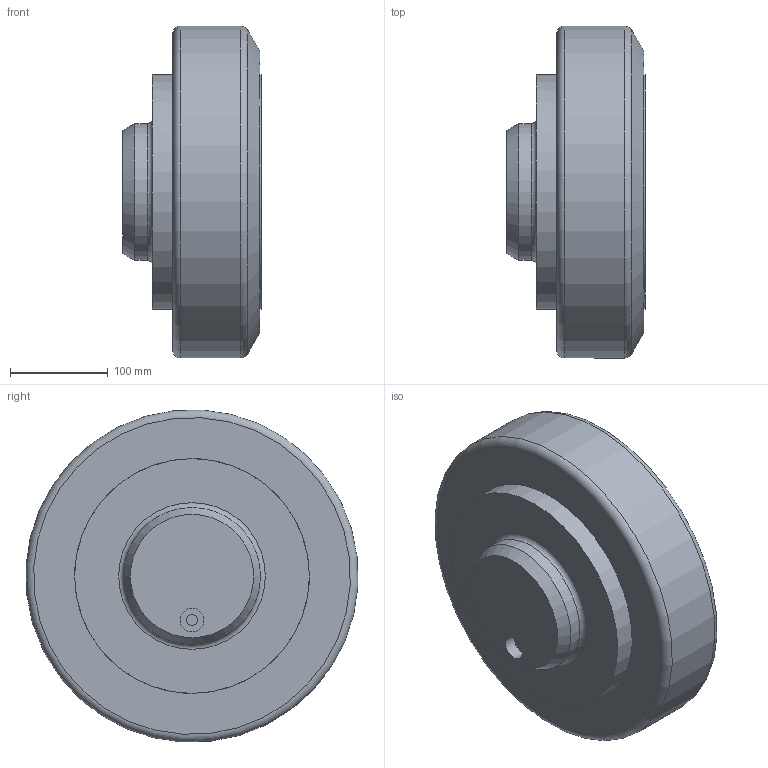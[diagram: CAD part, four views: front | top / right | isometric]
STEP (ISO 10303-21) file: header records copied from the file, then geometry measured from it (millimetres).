
FILE_DESCRIPTION((''),'2;1');
FILE_NAME('K:\Daten\KOMPONENTEN 2D + 3D\KOMPONENTEN Step-Files für extern\_ALFATEC_Mammutrollen und Profile\MR .0410\ALFATEC_MR 340.0410.stp','2013-10-01T17:07:30',('hipp'),(''),'Autodesk Inventor 2013','Autodesk Inventor 2013','');
FILE_SCHEMA(('CONFIG_CONTROL_DESIGN'));
Length unit declared in the file: millimetre
Products named in the file (5): ALFATEC_MR_340_0410; ALFATEC_MR_340_0610_Bolzen; ALFATEC_MR_340_0610_Außenring; ALFATEC_MR_340_0410_Deckel; 01023031 Hexagon socket head cap screws DIN 912 M16x30
Assembly tree (11 placements, depth 2):
  ALFATEC_MR_340_0410
    ALFATEC_MR_340_0610_Bolzen
    ALFATEC_MR_340_0610_Außenring
    ALFATEC_MR_340_0410_Deckel
    01023031 Hexagon socket head cap screws DIN 912 M16x30  x8
Bounding box: 141.1 x 339.37 x 339.37 mm (x, y, z)
Volume: 9306516.9 mm3; surface area: 550744.6 mm2
Topology: 11 solids, 12 shells, 264 faces, 642 edges, 413 vertices
Faces by surface type: plane 131, cone 74, cylinder 32, torus 27
Full cylindrical faces by diameter (mm): 11.445 x2, 16 x8, 24 x9, 25.5 x8, 140 x1, 240 x3, 340 x1
Entity records: 1741 total; most frequent: DIRECTION 300, CARTESIAN_POINT 283, ORIENTED_EDGE 200, AXIS2_PLACEMENT_3D 135, EDGE_LOOP 112, EDGE_CURVE 100, VERTEX_POINT 82, FACE_OUTER_BOUND 61
